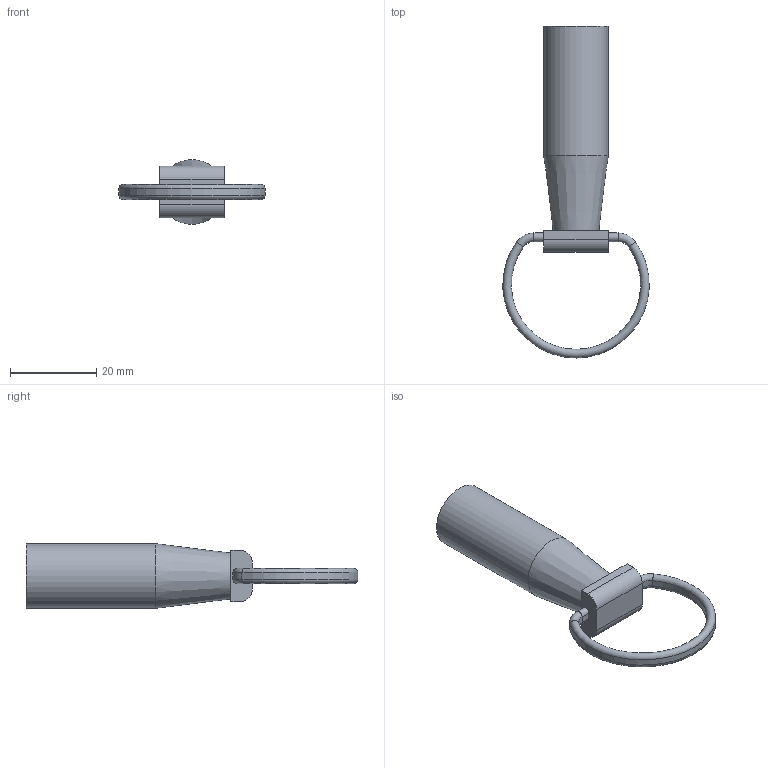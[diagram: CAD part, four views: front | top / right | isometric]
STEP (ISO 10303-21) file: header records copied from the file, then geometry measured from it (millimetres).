
FILE_DESCRIPTION (( 'STEP AP214' ), '1' );
FILE_NAME ('F30151.step', '2024-12-03T16:16:21', ( '' ), ( '' ), 'SwSTEP 2.0', 'SolidWorks 2023', '' );
FILE_SCHEMA (( 'AUTOMOTIVE_DESIGN' ));
Length unit declared in the file: millimetre
Products named in the file (1): F30151
Bounding box: 33.95 x 77 x 15 mm (x, y, z)
Volume: 8437 mm3; surface area: 3826.8 mm2
Topology: 1 solids, 1 shells, 36 faces, 80 edges, 48 vertices
Faces by surface type: plane 16, cylinder 13, torus 6, cone 1
Full cylindrical faces by diameter (mm): 15 x1
Entity records: 995 total; most frequent: DIRECTION 182, CARTESIAN_POINT 161, ORIENTED_EDGE 154, EDGE_CURVE 77, AXIS2_PLACEMENT_3D 68, VERTEX_POINT 47, VECTOR 46, LINE 46
